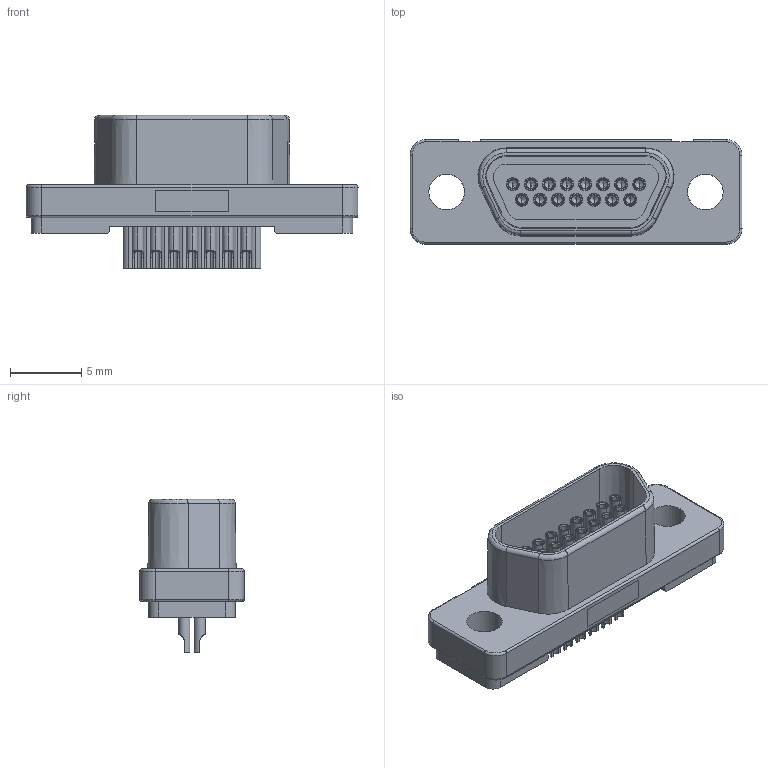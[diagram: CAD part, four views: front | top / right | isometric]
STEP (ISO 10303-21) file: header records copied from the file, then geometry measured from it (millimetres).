
FILE_DESCRIPTION (( 'STEP AP203' ), '1' );
FILE_NAME ('380-015-203L001.STEP', '2025-01-17T20:33:42', ( '' ), ( '' ), 'SwSTEP 2.0', 'SolidWorks 2020', '' );
FILE_SCHEMA (( 'CONFIG_CONTROL_DESIGN' ));
Length unit declared in the file: millimetre
Products named in the file (1): 380-015-203L001
Bounding box: 23.36 x 7.35 x 10.8 mm (x, y, z)
Volume: 585.1 mm3; surface area: 1854.6 mm2
Topology: 17 solids, 17 shells, 736 faces, 1720 edges, 1048 vertices
Faces by surface type: cylinder 369, plane 227, cone 128, bspline 12
Entity records: 21428 total; most frequent: CARTESIAN_POINT 4408, DIRECTION 3749, ORIENTED_EDGE 3320, EDGE_CURVE 1660, AXIS2_PLACEMENT_3D 1471, VERTEX_POINT 1048, EDGE_LOOP 870, LINE 807
